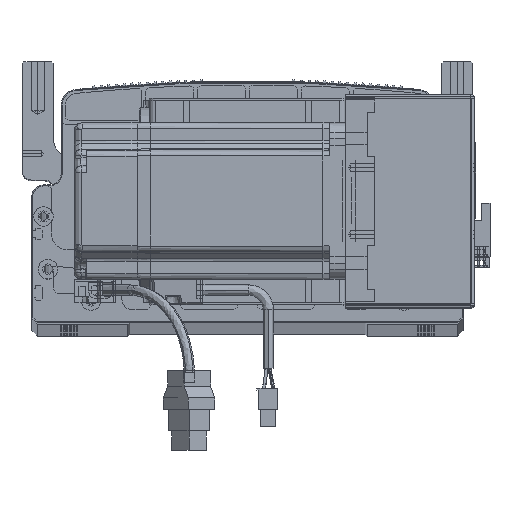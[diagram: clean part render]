
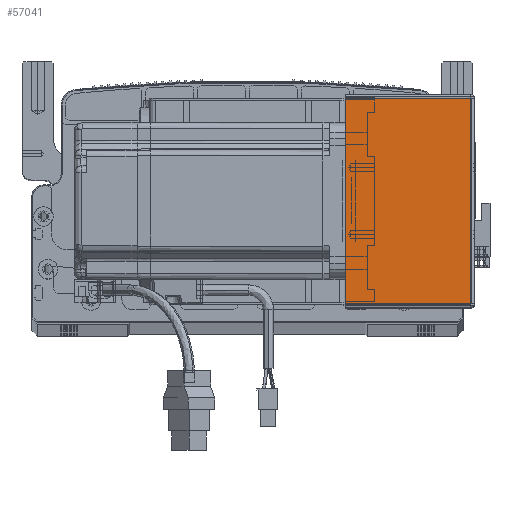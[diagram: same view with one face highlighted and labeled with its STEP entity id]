
A CAD part, top view. The second image highlights one B-rep face of the part: STEP entity #57041.
In plain terms, the highlighted planar face has unit normal (0, 0, 1) as drawn and (0, 0, -1) by its records, which use the part's own axes.
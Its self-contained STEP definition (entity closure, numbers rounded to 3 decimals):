
#6648 = EDGE_CURVE ( 'NONE', #45560, #96515, #93339, .T. ) ;
#8086 = VECTOR ( 'NONE', #9963, 1000. ) ;
#9211 = LINE ( 'NONE', #102420, #36250 ) ;
#9963 = DIRECTION ( 'NONE',  ( 1., 0., 0. ) ) ;
#14346 = DIRECTION ( 'NONE',  ( 0., 0., 1. ) ) ;
#14695 = CARTESIAN_POINT ( 'NONE',  ( 0., 0., -205.5 ) ) ;
#25970 = CARTESIAN_POINT ( 'NONE',  ( 0., 105.293, -205.5 ) ) ;
#26496 = CARTESIAN_POINT ( 'NONE',  ( 64.5, 0.707, -205.5 ) ) ;
#28395 = EDGE_CURVE ( 'NONE', #31615, #61156, #44016, .T. ) ;
#30043 = EDGE_CURVE ( 'NONE', #31615, #45560, #9211, .T. ) ;
#31615 = VERTEX_POINT ( 'NONE', #55577 ) ;
#32624 = LINE ( 'NONE', #79717, #36396 ) ;
#36250 = VECTOR ( 'NONE', #69942, 1000. ) ;
#36396 = VECTOR ( 'NONE', #86984, 1000. ) ;
#37753 = ORIENTED_EDGE ( 'NONE', *, *, #28395, .T. ) ;
#39493 = CARTESIAN_POINT ( 'NONE',  ( 0.737, 0.707, -205.5 ) ) ;
#41481 = DIRECTION ( 'NONE',  ( 1., 0., 0. ) ) ;
#44016 = LINE ( 'NONE', #25970, #58894 ) ;
#44508 = FACE_OUTER_BOUND ( 'NONE', #99409, .T. ) ;
#45560 = VERTEX_POINT ( 'NONE', #39493 ) ;
#52238 = AXIS2_PLACEMENT_3D ( 'NONE', #14695, #14346, #69561 ) ;
#55577 = CARTESIAN_POINT ( 'NONE',  ( 0.737, 105.293, -205.5 ) ) ;
#57041 = ADVANCED_FACE ( 'NONE', ( #44508 ), #100996, .F. ) ;
#57222 = CARTESIAN_POINT ( 'NONE',  ( 0., 0.707, -205.5 ) ) ;
#58894 = VECTOR ( 'NONE', #41481, 1000. ) ;
#61156 = VERTEX_POINT ( 'NONE', #75878 ) ;
#63964 = EDGE_CURVE ( 'NONE', #61156, #96515, #32624, .T. ) ;
#64927 = ORIENTED_EDGE ( 'NONE', *, *, #30043, .F. ) ;
#69561 = DIRECTION ( 'NONE',  ( 1., 0., 0. ) ) ;
#69942 = DIRECTION ( 'NONE',  ( 0., -1., 0. ) ) ;
#75878 = CARTESIAN_POINT ( 'NONE',  ( 64.5, 105.293, -205.5 ) ) ;
#79717 = CARTESIAN_POINT ( 'NONE',  ( 64.5, 0., -205.5 ) ) ;
#86984 = DIRECTION ( 'NONE',  ( 0., -1., 0. ) ) ;
#93339 = LINE ( 'NONE', #57222, #8086 ) ;
#94451 = ORIENTED_EDGE ( 'NONE', *, *, #6648, .F. ) ;
#96515 = VERTEX_POINT ( 'NONE', #26496 ) ;
#98718 = ORIENTED_EDGE ( 'NONE', *, *, #63964, .T. ) ;
#99409 = EDGE_LOOP ( 'NONE', ( #64927, #37753, #98718, #94451 ) ) ;
#100996 = PLANE ( 'NONE',  #52238 ) ;
#102420 = CARTESIAN_POINT ( 'NONE',  ( 0.737, 0., -205.5 ) ) ;
